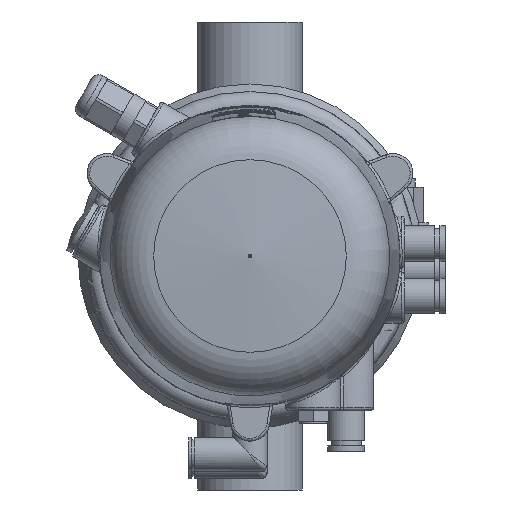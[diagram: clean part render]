
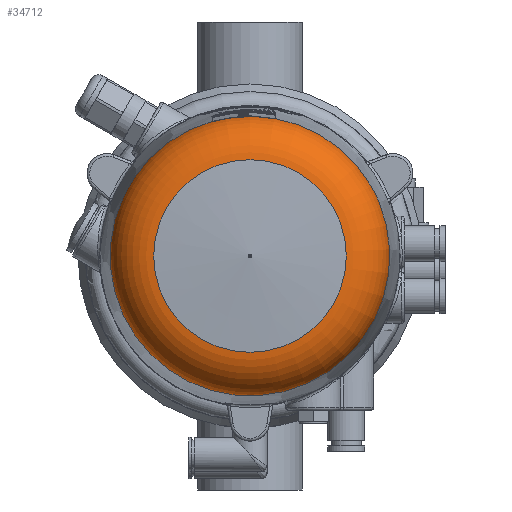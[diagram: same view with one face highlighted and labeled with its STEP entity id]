
A CAD part, front view. The second image highlights one B-rep face of the part: STEP entity #34712.
In plain terms, the highlighted toroidal (fillet/blend) face has major radius 33.812 mm and minor radius 17 mm.
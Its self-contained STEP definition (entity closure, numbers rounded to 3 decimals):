
#302 = AXIS2_PLACEMENT_3D ( 'NONE', #59825, #6812, #31680 ) ;
#3613 = CARTESIAN_POINT ( 'NONE',  ( 0., 156.588, -34.998 ) ) ;
#5616 = CARTESIAN_POINT ( 'NONE',  ( -49.217, 140.491, -12.546 ) ) ;
#6812 = DIRECTION ( 'NONE',  ( 0., -1., 0. ) ) ;
#7388 = ORIENTED_EDGE ( 'NONE', *, *, #39565, .T. ) ;
#8180 = CARTESIAN_POINT ( 'NONE',  ( -38.516, 140.482, -33.11 ) ) ;
#9450 = CARTESIAN_POINT ( 'NONE',  ( -49.218, 140.473, -12.546 ) ) ;
#10013 = DIRECTION ( 'NONE',  ( 0., -1., 0. ) ) ;
#10129 = AXIS2_PLACEMENT_3D ( 'NONE', #25191, #10013, #59122 ) ;
#13994 = CARTESIAN_POINT ( 'NONE',  ( -49.218, 140.463, -12.546 ) ) ;
#14672 = CARTESIAN_POINT ( 'NONE',  ( 0., 140.491, 0. ) ) ;
#15275 = VERTEX_POINT ( 'NONE', #31942 ) ;
#15830 = EDGE_LOOP ( 'NONE', ( #7388 ) ) ;
#16977 = EDGE_CURVE ( 'NONE', #61544, #15275, #47758, .T. ) ;
#17129 = FACE_OUTER_BOUND ( 'NONE', #49413, .T. ) ;
#17358 = TOROIDAL_SURFACE ( 'NONE', #56533, 33.812, 17. ) ;
#23735 = CARTESIAN_POINT ( 'NONE',  ( -38.515, 140.491, -33.11 ) ) ;
#25191 = CARTESIAN_POINT ( 'NONE',  ( 0., 140.463, 0. ) ) ;
#26575 = CARTESIAN_POINT ( 'NONE',  ( -38.517, 140.463, -33.11 ) ) ;
#26805 = FACE_OUTER_BOUND ( 'NONE', #15830, .T. ) ;
#27454 = DIRECTION ( 'NONE',  ( 0., 0., -1. ) ) ;
#27599 = ORIENTED_EDGE ( 'NONE', *, *, #34283, .T. ) ;
#30223 = CARTESIAN_POINT ( 'NONE',  ( -38.515, 140.491, -33.11 ) ) ;
#31680 = DIRECTION ( 'NONE',  ( 0., 0., -1. ) ) ;
#31942 = CARTESIAN_POINT ( 'NONE',  ( -49.218, 140.463, -12.546 ) ) ;
#33650 = ORIENTED_EDGE ( 'NONE', *, *, #16977, .T. ) ;
#34283 = EDGE_CURVE ( 'NONE', #47018, #61544, #37916, .T. ) ;
#34712 = ADVANCED_FACE ( 'NONE', ( #17129, #26805 ), #17358, .T. ) ;
#36289 = EDGE_CURVE ( 'NONE', #47018, #51375, #41434, .T. ) ;
#37108 = DIRECTION ( 'NONE',  ( 0., -1., 0. ) ) ;
#37382 = CIRCLE ( 'NONE', #302, 34.998 ) ;
#37916 = CIRCLE ( 'NONE', #44115, 50.791 ) ;
#38524 = CARTESIAN_POINT ( 'NONE',  ( -49.217, 140.491, -12.546 ) ) ;
#39565 = EDGE_CURVE ( 'NONE', #47848, #47848, #37382, .T. ) ;
#41434 = B_SPLINE_CURVE_WITH_KNOTS ( 'NONE', 3,
 ( #23735, #8180, #47902, #53088 ),
 .UNSPECIFIED., .F., .F.,
 ( 4, 4 ),
 ( 0., 0. ),
 .UNSPECIFIED. ) ;
#41949 = CARTESIAN_POINT ( 'NONE',  ( 0., 139.629, 0. ) ) ;
#44115 = AXIS2_PLACEMENT_3D ( 'NONE', #14672, #49169, #44326 ) ;
#44326 = DIRECTION ( 'NONE',  ( 0., 0., -1. ) ) ;
#45139 = CIRCLE ( 'NONE', #10129, 50.792 ) ;
#47018 = VERTEX_POINT ( 'NONE', #30223 ) ;
#47758 = B_SPLINE_CURVE_WITH_KNOTS ( 'NONE', 3,
 ( #38524, #58218, #9450, #13994 ),
 .UNSPECIFIED., .F., .F.,
 ( 4, 4 ),
 ( 0., 0. ),
 .UNSPECIFIED. ) ;
#47848 = VERTEX_POINT ( 'NONE', #3613 ) ;
#47902 = CARTESIAN_POINT ( 'NONE',  ( -38.516, 140.473, -33.11 ) ) ;
#47961 = EDGE_CURVE ( 'NONE', #51375, #15275, #45139, .T. ) ;
#49169 = DIRECTION ( 'NONE',  ( 0., 1., 0. ) ) ;
#49413 = EDGE_LOOP ( 'NONE', ( #62993, #27599, #33650, #62454 ) ) ;
#51375 = VERTEX_POINT ( 'NONE', #26575 ) ;
#53088 = CARTESIAN_POINT ( 'NONE',  ( -38.517, 140.463, -33.11 ) ) ;
#56533 = AXIS2_PLACEMENT_3D ( 'NONE', #41949, #37108, #27454 ) ;
#58218 = CARTESIAN_POINT ( 'NONE',  ( -49.217, 140.482, -12.546 ) ) ;
#59122 = DIRECTION ( 'NONE',  ( 0., 0., -1. ) ) ;
#59825 = CARTESIAN_POINT ( 'NONE',  ( 0., 156.588, 0. ) ) ;
#61544 = VERTEX_POINT ( 'NONE', #5616 ) ;
#62454 = ORIENTED_EDGE ( 'NONE', *, *, #47961, .F. ) ;
#62993 = ORIENTED_EDGE ( 'NONE', *, *, #36289, .F. ) ;
